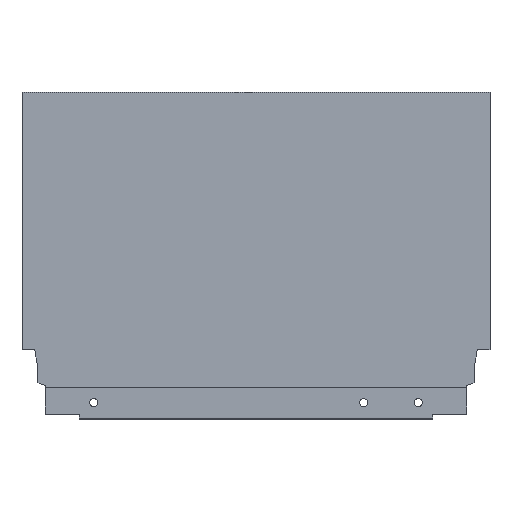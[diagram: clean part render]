
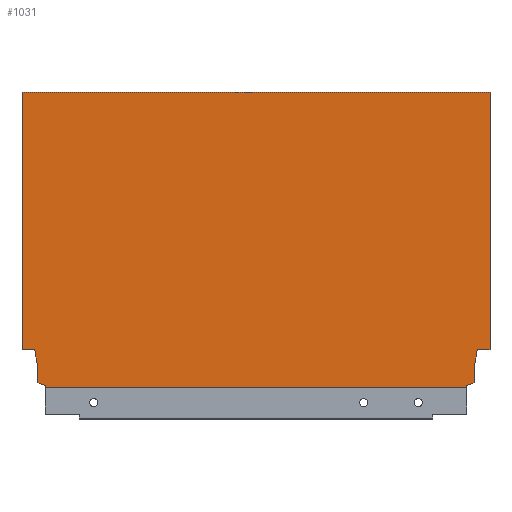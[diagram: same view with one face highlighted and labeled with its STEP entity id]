
A CAD part, top view. The second image highlights one B-rep face of the part: STEP entity #1031.
In plain terms, the highlighted planar face has unit normal (0, 0, 1).
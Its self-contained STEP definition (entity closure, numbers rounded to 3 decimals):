
#66 = EDGE_CURVE ( 'NONE', #826, #292, #1355, .T. ) ;
#68 = EDGE_CURVE ( 'NONE', #264, #268, #1359, .T. ) ;
#70 = EDGE_CURVE ( 'NONE', #268, #821, #1363, .T. ) ;
#71 = EDGE_CURVE ( 'NONE', #292, #264, #1365, .T. ) ;
#72 = EDGE_CURVE ( 'NONE', #821, #269, #1367, .T. ) ;
#73 = EDGE_CURVE ( 'NONE', #269, #823, #1369, .T. ) ;
#74 = EDGE_CURVE ( 'NONE', #826, #278, #1371, .T. ) ;
#75 = EDGE_CURVE ( 'NONE', #823, #274, #1350, .T. ) ;
#76 = EDGE_CURVE ( 'NONE', #277, #296, #1375, .T. ) ;
#77 = EDGE_CURVE ( 'NONE', #296, #290, #1377, .T. ) ;
#78 = EDGE_CURVE ( 'NONE', #290, #267, #1379, .T. ) ;
#79 = EDGE_CURVE ( 'NONE', #267, #278, #1381, .T. ) ;
#80 = EDGE_CURVE ( 'NONE', #824, #274, #1383, .T. ) ;
#83 = EDGE_CURVE ( 'NONE', #824, #277, #1358, .T. ) ;
#125 = AXIS2_PLACEMENT_3D ( 'NONE', #664, #675, #673 ) ;
#163 = ORIENTED_EDGE ( 'NONE', *, *, #70, .F. ) ;
#166 = ORIENTED_EDGE ( 'NONE', *, *, #68, .F. ) ;
#250 = CARTESIAN_POINT ( 'NONE',  ( -247.996, 0., 7.5 ) ) ;
#251 = CARTESIAN_POINT ( 'NONE',  ( -13.004, 1.146, 7.5 ) ) ;
#253 = CARTESIAN_POINT ( 'NONE',  ( -261., 164.7, 7.5 ) ) ;
#264 = VERTEX_POINT ( 'NONE', #382 ) ;
#267 = VERTEX_POINT ( 'NONE', #358 ) ;
#268 = VERTEX_POINT ( 'NONE', #362 ) ;
#269 = VERTEX_POINT ( 'NONE', #367 ) ;
#274 = VERTEX_POINT ( 'NONE', #383 ) ;
#277 = VERTEX_POINT ( 'NONE', #393 ) ;
#278 = VERTEX_POINT ( 'NONE', #397 ) ;
#290 = VERTEX_POINT ( 'NONE', #441 ) ;
#292 = VERTEX_POINT ( 'NONE', #448 ) ;
#296 = VERTEX_POINT ( 'NONE', #309 ) ;
#309 = CARTESIAN_POINT ( 'NONE',  ( -252.1, 2.64, 7.5 ) ) ;
#358 = CARTESIAN_POINT ( 'NONE',  ( -253.94, 21.2, 7.5 ) ) ;
#362 = CARTESIAN_POINT ( 'NONE',  ( -7.06, 21.2, 7.5 ) ) ;
#367 = CARTESIAN_POINT ( 'NONE',  ( -8.9, 2.64, 7.5 ) ) ;
#382 = CARTESIAN_POINT ( 'NONE',  ( 0., 21.2, 7.5 ) ) ;
#383 = CARTESIAN_POINT ( 'NONE',  ( -13.004, 0., 7.5 ) ) ;
#393 = CARTESIAN_POINT ( 'NONE',  ( -247.996, 1.146, 7.5 ) ) ;
#397 = CARTESIAN_POINT ( 'NONE',  ( -261., 21.2, 7.5 ) ) ;
#441 = CARTESIAN_POINT ( 'NONE',  ( -252.1, 10.765, 7.5 ) ) ;
#448 = CARTESIAN_POINT ( 'NONE',  ( 0., 164.7, 7.5 ) ) ;
#456 = CARTESIAN_POINT ( 'NONE',  ( -247.996, 1.146, 7.5 ) ) ;
#466 = DIRECTION ( 'NONE',  ( 0., 1., 0. ) ) ;
#473 = DIRECTION ( 'NONE',  ( 1., 0., 0. ) ) ;
#477 = CARTESIAN_POINT ( 'NONE',  ( -261., 0., 7.5 ) ) ;
#478 = DIRECTION ( 'NONE',  ( -1., 0., 0. ) ) ;
#488 = CARTESIAN_POINT ( 'NONE',  ( -261., 164.7, 7.5 ) ) ;
#491 = DIRECTION ( 'NONE',  ( 1., 0., 0. ) ) ;
#494 = CARTESIAN_POINT ( 'NONE',  ( -13.004, 1.146, 7.5 ) ) ;
#503 = CARTESIAN_POINT ( 'NONE',  ( 0., 21.2, 7.5 ) ) ;
#504 = DIRECTION ( 'NONE',  ( -1., 0., 0. ) ) ;
#513 = CARTESIAN_POINT ( 'NONE',  ( -7.06, 21.2, 7.5 ) ) ;
#515 = DIRECTION ( 'NONE',  ( -0.174, -0.985, 0. ) ) ;
#520 = CARTESIAN_POINT ( 'NONE',  ( 0., 0., 7.5 ) ) ;
#522 = DIRECTION ( 'NONE',  ( 0., -1., 0. ) ) ;
#524 = CARTESIAN_POINT ( 'NONE',  ( -8.9, 10.765, 7.5 ) ) ;
#528 = DIRECTION ( 'NONE',  ( 0., -1., 0. ) ) ;
#532 = CARTESIAN_POINT ( 'NONE',  ( -8.9, 2.64, 7.5 ) ) ;
#535 = DIRECTION ( 'NONE',  ( -0.94, -0.342, 0. ) ) ;
#540 = CARTESIAN_POINT ( 'NONE',  ( -261., 0., 7.5 ) ) ;
#541 = DIRECTION ( 'NONE',  ( 0., -1., 0. ) ) ;
#548 = DIRECTION ( 'NONE',  ( 0., -1., 0. ) ) ;
#552 = DIRECTION ( 'NONE',  ( -0.94, 0.342, 0. ) ) ;
#557 = CARTESIAN_POINT ( 'NONE',  ( -252.1, 10.765, 7.5 ) ) ;
#559 = DIRECTION ( 'NONE',  ( 0., 1., 0. ) ) ;
#561 = CARTESIAN_POINT ( 'NONE',  ( -252.1, 2.64, 7.5 ) ) ;
#566 = CARTESIAN_POINT ( 'NONE',  ( -253.94, 21.2, 7.5 ) ) ;
#569 = DIRECTION ( 'NONE',  ( -0.174, 0.985, 0. ) ) ;
#573 = CARTESIAN_POINT ( 'NONE',  ( -266., 21.2, 7.5 ) ) ;
#664 = CARTESIAN_POINT ( 'NONE',  ( -261., 0., 7.5 ) ) ;
#673 = DIRECTION ( 'NONE',  ( 1., 0., 0. ) ) ;
#675 = DIRECTION ( 'NONE',  ( 0., 0., 1. ) ) ;
#679 = PLANE ( 'NONE',  #125 ) ;
#784 = CARTESIAN_POINT ( 'NONE',  ( -8.9, 10.765, 7.5 ) ) ;
#821 = VERTEX_POINT ( 'NONE', #784 ) ;
#823 = VERTEX_POINT ( 'NONE', #251 ) ;
#824 = VERTEX_POINT ( 'NONE', #250 ) ;
#826 = VERTEX_POINT ( 'NONE', #253 ) ;
#1031 = ADVANCED_FACE ( 'NONE', ( #1474 ), #679, .T. ) ;
#1083 = ORIENTED_EDGE ( 'NONE', *, *, #66, .F. ) ;
#1084 = ORIENTED_EDGE ( 'NONE', *, *, #71, .F. ) ;
#1090 = ORIENTED_EDGE ( 'NONE', *, *, #72, .F. ) ;
#1091 = ORIENTED_EDGE ( 'NONE', *, *, #73, .F. ) ;
#1092 = ORIENTED_EDGE ( 'NONE', *, *, #75, .F. ) ;
#1093 = ORIENTED_EDGE ( 'NONE', *, *, #80, .T. ) ;
#1094 = ORIENTED_EDGE ( 'NONE', *, *, #83, .F. ) ;
#1095 = ORIENTED_EDGE ( 'NONE', *, *, #76, .F. ) ;
#1096 = ORIENTED_EDGE ( 'NONE', *, *, #77, .F. ) ;
#1097 = ORIENTED_EDGE ( 'NONE', *, *, #78, .F. ) ;
#1098 = ORIENTED_EDGE ( 'NONE', *, *, #79, .F. ) ;
#1099 = ORIENTED_EDGE ( 'NONE', *, *, #74, .T. ) ;
#1219 = EDGE_LOOP ( 'NONE', ( #1099, #1098, #1097, #1096, #1095, #1094, #1093, #1092, #1091, #1090, #163, #166, #1084, #1083 ) ) ;
#1350 = LINE ( 'NONE', #494, #1373 ) ;
#1352 = VECTOR ( 'NONE', #466, 1000. ) ;
#1355 = LINE ( 'NONE', #488, #1356 ) ;
#1356 = VECTOR ( 'NONE', #491, 1000. ) ;
#1358 = LINE ( 'NONE', #456, #1352 ) ;
#1359 = LINE ( 'NONE', #503, #1360 ) ;
#1360 = VECTOR ( 'NONE', #504, 1000. ) ;
#1363 = LINE ( 'NONE', #513, #1364 ) ;
#1364 = VECTOR ( 'NONE', #515, 1000. ) ;
#1365 = LINE ( 'NONE', #520, #1366 ) ;
#1366 = VECTOR ( 'NONE', #522, 1000. ) ;
#1367 = LINE ( 'NONE', #524, #1368 ) ;
#1368 = VECTOR ( 'NONE', #528, 1000. ) ;
#1369 = LINE ( 'NONE', #532, #1370 ) ;
#1370 = VECTOR ( 'NONE', #535, 1000. ) ;
#1371 = LINE ( 'NONE', #540, #1372 ) ;
#1372 = VECTOR ( 'NONE', #541, 1000. ) ;
#1373 = VECTOR ( 'NONE', #548, 1000. ) ;
#1375 = LINE ( 'NONE', #561, #1376 ) ;
#1376 = VECTOR ( 'NONE', #552, 1000. ) ;
#1377 = LINE ( 'NONE', #557, #1378 ) ;
#1378 = VECTOR ( 'NONE', #559, 1000. ) ;
#1379 = LINE ( 'NONE', #566, #1380 ) ;
#1380 = VECTOR ( 'NONE', #569, 1000. ) ;
#1381 = LINE ( 'NONE', #573, #1382 ) ;
#1382 = VECTOR ( 'NONE', #478, 1000. ) ;
#1383 = LINE ( 'NONE', #477, #1384 ) ;
#1384 = VECTOR ( 'NONE', #473, 1000. ) ;
#1474 = FACE_OUTER_BOUND ( 'NONE', #1219, .T. ) ;
